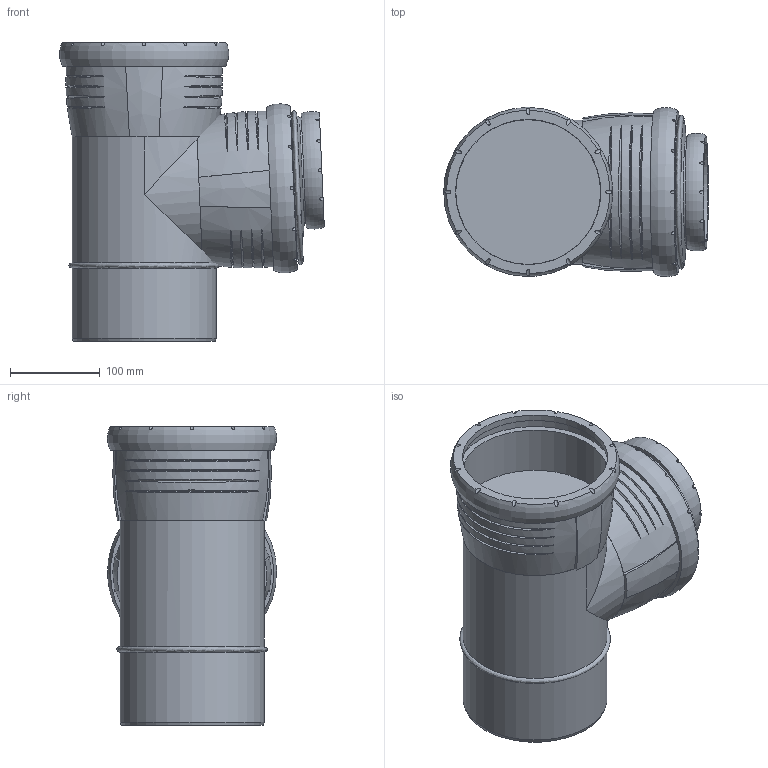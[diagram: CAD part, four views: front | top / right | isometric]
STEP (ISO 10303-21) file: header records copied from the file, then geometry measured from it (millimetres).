
FILE_DESCRIPTION(/* description */ (''),/* implementation_level */ '2;1');
FILE_NAME(/* name */ 'H:\Geberit-Teile\Export\Abzweig PP\stp\393751.stp',/* time_stamp */ '2017-02-13T13:22:27+01:00',/* author */ ('seihe2'),/* organization */ (''),/* preprocessor_version */ 'ST-DEVELOPER v15.2',/* originating_system */ 'Autodesk Inventor 2014',/* authorisation */ '');
FILE_SCHEMA (('AUTOMOTIVE_DESIGN { 1 0 10303 214 3 1 1 }'));
Length unit declared in the file: millimetre
Products named in the file (1): 393751
Bounding box: 294.44 x 188.24 x 332.65 mm (x, y, z)
Volume: 6017451.8 mm3; surface area: 693107.3 mm2
Topology: 6 solids, 6 shells, 145 faces, 345 edges, 239 vertices
Faces by surface type: cylinder 62, bspline 47, plane 30, cone 3, torus 3
Full cylindrical faces by diameter (mm): 111 x1, 111.3 x1, 119.2 x1, 121.5 x1, 126.565 x2, 148.25 x2, 160.25 x4, 161.2 x2, 161.7 x2, 174.9 x2
Entity records: 9254 total; most frequent: CARTESIAN_POINT 6131, ORIENTED_EDGE 624, DIRECTION 535, EDGE_CURVE 311, AXIS2_PLACEMENT_3D 259, VERTEX_POINT 229, EDGE_LOOP 200, STYLED_ITEM 149
